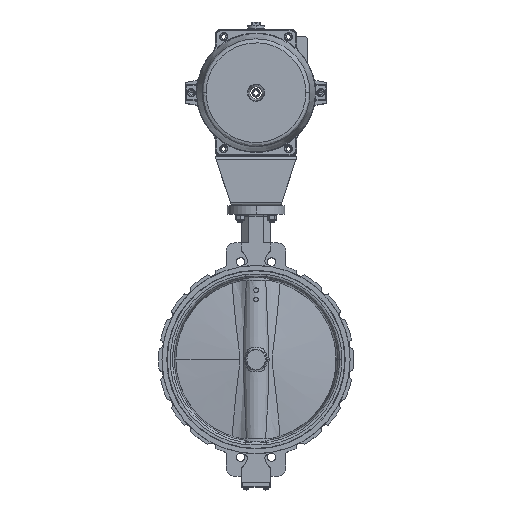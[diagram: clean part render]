
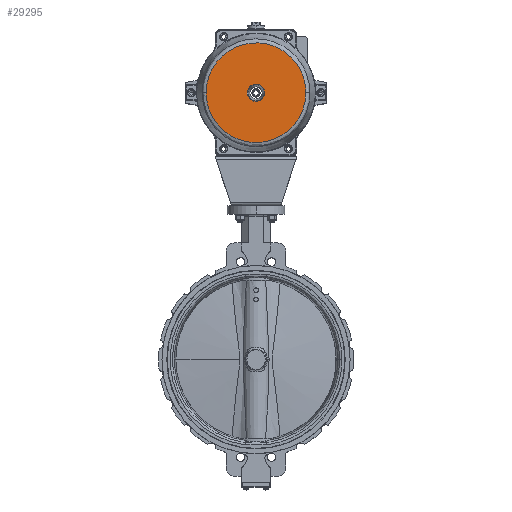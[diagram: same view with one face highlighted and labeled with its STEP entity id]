
A CAD part, top view. The second image highlights one B-rep face of the part: STEP entity #29295.
In plain terms, the highlighted planar face has unit normal (0, 0, 1).
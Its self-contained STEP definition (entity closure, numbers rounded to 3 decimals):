
#1277 = EDGE_CURVE ( 'NONE', #39990, #17604, #10657, .T. ) ;
#1388 = CARTESIAN_POINT ( 'NONE',  ( 182.79, 612.425, 445. ) ) ;
#2042 = CARTESIAN_POINT ( 'NONE',  ( 182.788, 978.001, 445. ) ) ;
#5023 = ORIENTED_EDGE ( 'NONE', *, *, #27010, .F. ) ;
#5195 = ORIENTED_EDGE ( 'NONE', *, *, #42629, .F. ) ;
#8492 = CARTESIAN_POINT ( 'NONE',  ( 31.694, 978., 445. ) ) ;
#9180 =( BOUNDED_CURVE ( )  B_SPLINE_CURVE ( 3, ( #9806, #1388, #35359, #52546 ),
 .UNSPECIFIED., .F., .F. ) 
 B_SPLINE_CURVE_WITH_KNOTS ( ( 4, 4 ),
 ( 0., 1. ),
 .UNSPECIFIED. ) 
 CURVE ( )  GEOMETRIC_REPRESENTATION_ITEM ( )  RATIONAL_B_SPLINE_CURVE ( ( 1., 0.333, 0.333, 1. ) ) 
 REPRESENTATION_ITEM ( '' )  );
#9458 =( BOUNDED_CURVE ( )  B_SPLINE_CURVE ( 3, ( #45343, #10465, #27768, #27966 ),
 .UNSPECIFIED., .F., .F. ) 
 B_SPLINE_CURVE_WITH_KNOTS ( ( 4, 4 ),
 ( 0., 1. ),
 .UNSPECIFIED. ) 
 CURVE ( )  GEOMETRIC_REPRESENTATION_ITEM ( )  RATIONAL_B_SPLINE_CURVE ( ( 1., 0.333, 0.333, 1. ) ) 
 REPRESENTATION_ITEM ( '' )  );
#9806 = CARTESIAN_POINT ( 'NONE',  ( 182.788, 978.001, 445. ) ) ;
#10465 = CARTESIAN_POINT ( 'NONE',  ( 31.694, 1041.389, 445. ) ) ;
#10657 =( BOUNDED_CURVE ( )  B_SPLINE_CURVE ( 3, ( #34633, #17117, #51435, #8492 ),
 .UNSPECIFIED., .F., .T. ) 
 B_SPLINE_CURVE_WITH_KNOTS ( ( 4, 4 ),
 ( 0., 1. ),
 .UNSPECIFIED. ) 
 CURVE ( )  GEOMETRIC_REPRESENTATION_ITEM ( )  RATIONAL_B_SPLINE_CURVE ( ( 1., 0.333, 0.333, 1. ) ) 
 REPRESENTATION_ITEM ( '' )  );
#11493 = DIRECTION ( 'NONE',  ( 0., 0., -1. ) ) ;
#12919 =( BOUNDED_CURVE ( )  B_SPLINE_CURVE ( 3, ( #19584, #45505, #49440, #23852 ),
 .UNSPECIFIED., .F., .T. ) 
 B_SPLINE_CURVE_WITH_KNOTS ( ( 4, 4 ),
 ( 0., 1. ),
 .UNSPECIFIED. ) 
 CURVE ( )  GEOMETRIC_REPRESENTATION_ITEM ( )  RATIONAL_B_SPLINE_CURVE ( ( 1., 0.333, 0.333, 1. ) ) 
 REPRESENTATION_ITEM ( '' )  );
#14746 = ORIENTED_EDGE ( 'NONE', *, *, #1277, .F. ) ;
#15013 = AXIS2_PLACEMENT_3D ( 'NONE', #41110, #11493, #32148 ) ;
#15838 = EDGE_LOOP ( 'NONE', ( #5023, #14746 ) ) ;
#17117 = CARTESIAN_POINT ( 'NONE',  ( -31.694, 914.611, 445. ) ) ;
#17604 = VERTEX_POINT ( 'NONE', #29070 ) ;
#19584 = CARTESIAN_POINT ( 'NONE',  ( -182.788, 977.999, 445. ) ) ;
#20228 = VERTEX_POINT ( 'NONE', #2042 ) ;
#23852 = CARTESIAN_POINT ( 'NONE',  ( 182.788, 978.001, 445. ) ) ;
#27010 = EDGE_CURVE ( 'NONE', #17604, #39990, #9458, .T. ) ;
#27768 = CARTESIAN_POINT ( 'NONE',  ( -31.695, 1041.388, 445. ) ) ;
#27966 = CARTESIAN_POINT ( 'NONE',  ( -31.694, 978., 445. ) ) ;
#29070 = CARTESIAN_POINT ( 'NONE',  ( 31.694, 978., 445. ) ) ;
#29295 = ADVANCED_FACE ( 'NONE', ( #37767, #41081 ), #48220, .F. ) ;
#32148 = DIRECTION ( 'NONE',  ( -1., 0., 0. ) ) ;
#34633 = CARTESIAN_POINT ( 'NONE',  ( -31.694, 978., 445. ) ) ;
#35359 = CARTESIAN_POINT ( 'NONE',  ( -182.786, 612.423, 445. ) ) ;
#36557 = EDGE_CURVE ( 'NONE', #20228, #50589, #9180, .T. ) ;
#37686 = ORIENTED_EDGE ( 'NONE', *, *, #36557, .F. ) ;
#37767 = FACE_BOUND ( 'NONE', #15838, .T. ) ;
#39990 = VERTEX_POINT ( 'NONE', #51030 ) ;
#41081 = FACE_OUTER_BOUND ( 'NONE', #48427, .T. ) ;
#41110 = CARTESIAN_POINT ( 'NONE',  ( -30., 978., 445. ) ) ;
#42629 = EDGE_CURVE ( 'NONE', #50589, #20228, #12919, .T. ) ;
#45343 = CARTESIAN_POINT ( 'NONE',  ( 31.694, 978., 445. ) ) ;
#45505 = CARTESIAN_POINT ( 'NONE',  ( -182.79, 1343.575, 445. ) ) ;
#48220 = PLANE ( 'NONE',  #15013 ) ;
#48427 = EDGE_LOOP ( 'NONE', ( #37686, #5195 ) ) ;
#49440 = CARTESIAN_POINT ( 'NONE',  ( 182.786, 1343.577, 445. ) ) ;
#50589 = VERTEX_POINT ( 'NONE', #51734 ) ;
#51030 = CARTESIAN_POINT ( 'NONE',  ( -31.694, 978., 445. ) ) ;
#51435 = CARTESIAN_POINT ( 'NONE',  ( 31.695, 914.612, 445. ) ) ;
#51734 = CARTESIAN_POINT ( 'NONE',  ( -182.788, 977.999, 445. ) ) ;
#52546 = CARTESIAN_POINT ( 'NONE',  ( -182.788, 977.999, 445. ) ) ;
